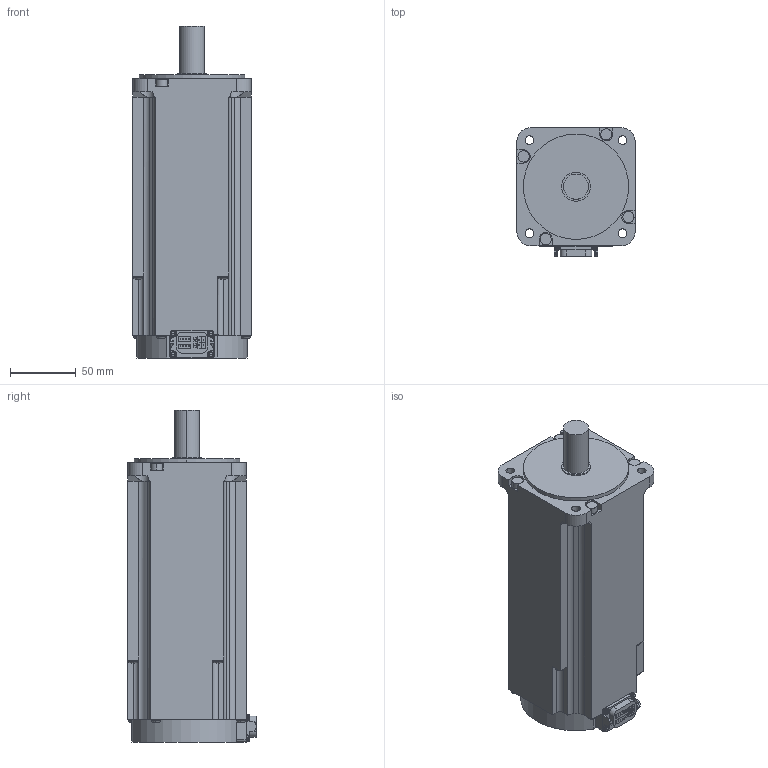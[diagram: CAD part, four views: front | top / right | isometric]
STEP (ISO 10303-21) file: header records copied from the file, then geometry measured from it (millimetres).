
FILE_DESCRIPTION((''),'2;1');
FILE_NAME('PRT0002','2019-01-16T',('XE90682'),(''),'CREO PARAMETRIC BY PTC INC, 2016380','CREO PARAMETRIC BY PTC INC, 2016380','');
FILE_SCHEMA(('CONFIG_CONTROL_DESIGN'));
Length unit declared in the file: millimetre
Products named in the file (1): PRT0002
Bounding box: 90 x 97.65 x 252.3 mm (x, y, z)
Volume: 1496811.2 mm3; surface area: 92836.9 mm2
Topology: 1 solids, 1 shells, 397 faces, 1028 edges, 652 vertices
Faces by surface type: plane 224, cylinder 117, torus 24, sphere 24, cone 8
Entity records: 12079 total; most frequent: CARTESIAN_POINT 2189, DIRECTION 2101, ORIENTED_EDGE 2008, EDGE_CURVE 1004, AXIS2_PLACEMENT_3D 716, VECTOR 669, LINE 669, VERTEX_POINT 652
